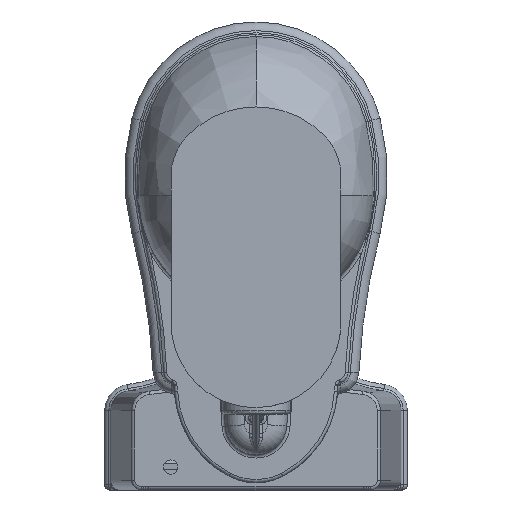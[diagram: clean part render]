
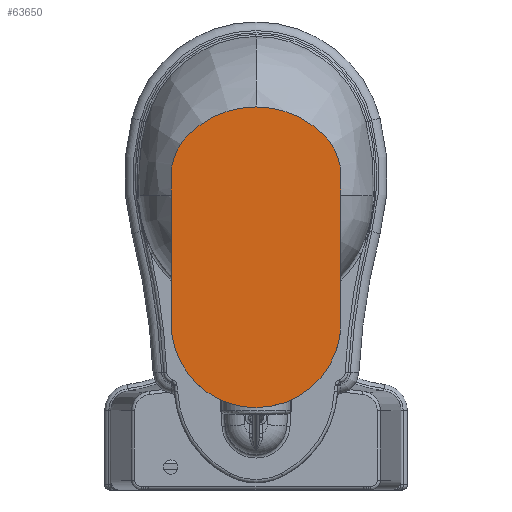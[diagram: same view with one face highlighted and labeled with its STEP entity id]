
A CAD part, front view. The second image highlights one B-rep face of the part: STEP entity #63650.
In plain terms, the highlighted planar face has unit normal (0, -1, 0).
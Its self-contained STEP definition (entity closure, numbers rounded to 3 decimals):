
#740 = DIRECTION ( 'NONE',  ( 0., 0., -1. ) ) ;
#1315 = PLANE ( 'NONE',  #2878 ) ;
#2878 = AXIS2_PLACEMENT_3D ( 'NONE', #47075, #21736, #57378 ) ;
#4089 = ORIENTED_EDGE ( 'NONE', *, *, #65814, .T. ) ;
#4507 = CARTESIAN_POINT ( 'NONE',  ( -95.016, -420., 42.206 ) ) ;
#5114 = ORIENTED_EDGE ( 'NONE', *, *, #58583, .T. ) ;
#6199 = DIRECTION ( 'NONE',  ( 0., 0., 1. ) ) ;
#7282 = VERTEX_POINT ( 'NONE', #20678 ) ;
#8766 = CARTESIAN_POINT ( 'NONE',  ( 0., -420., 314.123 ) ) ;
#9597 = CARTESIAN_POINT ( 'NONE',  ( -76.064, -420., 24.98 ) ) ;
#11065 = CARTESIAN_POINT ( 'NONE',  ( 130., -420., 131.035 ) ) ;
#12330 = CARTESIAN_POINT ( 'NONE',  ( 130., -420., 355.5 ) ) ;
#12733 = CIRCLE ( 'NONE', #15038, 87.838 ) ;
#12943 = CARTESIAN_POINT ( 'NONE',  ( 0., -420., 1.035 ) ) ;
#13858 = DIRECTION ( 'NONE',  ( 0., 0., -1. ) ) ;
#14490 = CARTESIAN_POINT ( 'NONE',  ( -128.764, -420., 109.742 ) ) ;
#14707 = CARTESIAN_POINT ( 'NONE',  ( -56.723, -420., 14.022 ) ) ;
#14790 = DIRECTION ( 'NONE',  ( 0., -1., 0. ) ) ;
#15038 = AXIS2_PLACEMENT_3D ( 'NONE', #61702, #31189, #740 ) ;
#16658 = VERTEX_POINT ( 'NONE', #30504 ) ;
#19042 = VERTEX_POINT ( 'NONE', #57911 ) ;
#19600 = CARTESIAN_POINT ( 'NONE',  ( -123.151, -420., 89.319 ) ) ;
#19831 = CARTESIAN_POINT ( 'NONE',  ( -51.846, -420., 11.819 ) ) ;
#20678 = CARTESIAN_POINT ( 'NONE',  ( -130., -420., 131.035 ) ) ;
#20711 = CARTESIAN_POINT ( 'NONE',  ( -42.162, -420., 355.5 ) ) ;
#21279 = DIRECTION ( 'NONE',  ( 0., 0., -1. ) ) ;
#21736 = DIRECTION ( 'NONE',  ( 0., 1., 0. ) ) ;
#23101 = VERTEX_POINT ( 'NONE', #35910 ) ;
#23788 = VERTEX_POINT ( 'NONE', #12943 ) ;
#23944 = EDGE_CURVE ( 'NONE', #50625, #23101, #12733, .T. ) ;
#24703 = CARTESIAN_POINT ( 'NONE',  ( -120.936, -420., 83.295 ) ) ;
#24869 = CARTESIAN_POINT ( 'NONE',  ( -130., -420., 355.5 ) ) ;
#24925 = CARTESIAN_POINT ( 'NONE',  ( -50.366, -420., 11.187 ) ) ;
#25825 = DIRECTION ( 'NONE',  ( 0., 0., -1. ) ) ;
#27695 = LINE ( 'NONE', #56906, #39668 ) ;
#28042 = EDGE_CURVE ( 'NONE', #31858, #7282, #27695, .T. ) ;
#28953 = ORIENTED_EDGE ( 'NONE', *, *, #23944, .T. ) ;
#29175 = CARTESIAN_POINT ( 'NONE',  ( -130., -420., 122.42 ) ) ;
#29843 = CARTESIAN_POINT ( 'NONE',  ( -110.832, -420., 62.117 ) ) ;
#30072 = CARTESIAN_POINT ( 'NONE',  ( -17.285, -420., 1.035 ) ) ;
#30504 = CARTESIAN_POINT ( 'NONE',  ( 130., -420., 131.035 ) ) ;
#31189 = DIRECTION ( 'NONE',  ( 0., -1., 0. ) ) ;
#31858 = VERTEX_POINT ( 'NONE', #24869 ) ;
#33565 = CIRCLE ( 'NONE', #36437, 146.912 ) ;
#34973 = CARTESIAN_POINT ( 'NONE',  ( -97.886, -420., 45.371 ) ) ;
#35910 = CARTESIAN_POINT ( 'NONE',  ( 104.853, -420., 417.025 ) ) ;
#36437 = AXIS2_PLACEMENT_3D ( 'NONE', #8766, #44332, #13858 ) ;
#38680 = LINE ( 'NONE', #11065, #65803 ) ;
#39282 = ORIENTED_EDGE ( 'NONE', *, *, #28042, .T. ) ;
#39668 = VECTOR ( 'NONE', #21279, 1000. ) ;
#40094 = CARTESIAN_POINT ( 'NONE',  ( -85.89, -420., 33.07 ) ) ;
#44332 = DIRECTION ( 'NONE',  ( 0., -1., 0. ) ) ;
#44510 = CARTESIAN_POINT ( 'NONE',  ( -130., -420., 131.035 ) ) ;
#44614 = ORIENTED_EDGE ( 'NONE', *, *, #65723, .T. ) ;
#45175 = CARTESIAN_POINT ( 'NONE',  ( -63.374, -420., 17.37 ) ) ;
#45189 = ORIENTED_EDGE ( 'NONE', *, *, #51539, .T. ) ;
#45260 = CARTESIAN_POINT ( 'NONE',  ( 0., -420., 131.035 ) ) ;
#47075 = CARTESIAN_POINT ( 'NONE',  ( -42.162, -420., 355.5 ) ) ;
#50041 = CARTESIAN_POINT ( 'NONE',  ( -125.159, -420., 95.381 ) ) ;
#50263 = CARTESIAN_POINT ( 'NONE',  ( -53.321, -420., 12.463 ) ) ;
#50350 = DIRECTION ( 'NONE',  ( 0., 0., -1. ) ) ;
#50625 = VERTEX_POINT ( 'NONE', #12330 ) ;
#51539 = EDGE_CURVE ( 'NONE', #16658, #50625, #38680, .T. ) ;
#53275 = AXIS2_PLACEMENT_3D ( 'NONE', #20711, #56346, #25825 ) ;
#55220 = CARTESIAN_POINT ( 'NONE',  ( -121.709, -420., 85.297 ) ) ;
#55443 = CARTESIAN_POINT ( 'NONE',  ( -50.859, -420., 11.395 ) ) ;
#55931 = EDGE_CURVE ( 'NONE', #23788, #16658, #62387, .T. ) ;
#56346 = DIRECTION ( 'NONE',  ( 0., -1., 0. ) ) ;
#56906 = CARTESIAN_POINT ( 'NONE',  ( -130., -420., 355.5 ) ) ;
#57029 = ORIENTED_EDGE ( 'NONE', *, *, #55931, .T. ) ;
#57378 = DIRECTION ( 'NONE',  ( 0., 0., 1. ) ) ;
#57436 = B_SPLINE_CURVE_WITH_KNOTS ( 'NONE', 3,
 ( #44510, #29175, #14490, #50041, #19600, #55220, #24703, #60379, #29843, #65495, #34973, #4507, #40094, #9597, #45175, #14707, #50263, #19831, #55443, #24925, #60591, #30072, #65725 ),
 .UNSPECIFIED., .F., .F.,
 ( 4, 1, 1, 2, 2, 1, 2, 2, 1, 1, 1, 1, 2, 2, 4 ),
 ( 0., 0.125, 0.188, 0.219, 0.25, 0.375, 0.438, 0.5, 0.625, 0.688, 0.719, 0.734, 0.742, 0.75, 1. ),
 .UNSPECIFIED. ) ;
#57689 = CIRCLE ( 'NONE', #53275, 87.838 ) ;
#57911 = CARTESIAN_POINT ( 'NONE',  ( -104.853, -420., 417.025 ) ) ;
#58583 = EDGE_CURVE ( 'NONE', #23101, #19042, #33565, .T. ) ;
#58595 = FACE_OUTER_BOUND ( 'NONE', #60768, .T. ) ;
#60379 = CARTESIAN_POINT ( 'NONE',  ( -116.82, -420., 73.351 ) ) ;
#60591 = CARTESIAN_POINT ( 'NONE',  ( -33.907, -420., 4.35 ) ) ;
#60768 = EDGE_LOOP ( 'NONE', ( #44614, #57029, #45189, #28953, #5114, #4089, #39282 ) ) ;
#61702 = CARTESIAN_POINT ( 'NONE',  ( 42.162, -420., 355.5 ) ) ;
#62387 = CIRCLE ( 'NONE', #65817, 130. ) ;
#63650 = ADVANCED_FACE ( 'NONE', ( #58595 ), #1315, .F. ) ;
#65495 = CARTESIAN_POINT ( 'NONE',  ( -103.274, -420., 51.929 ) ) ;
#65723 = EDGE_CURVE ( 'NONE', #7282, #23788, #57436, .T. ) ;
#65725 = CARTESIAN_POINT ( 'NONE',  ( 0., -420., 1.035 ) ) ;
#65803 = VECTOR ( 'NONE', #6199, 1000. ) ;
#65814 = EDGE_CURVE ( 'NONE', #19042, #31858, #57689, .T. ) ;
#65817 = AXIS2_PLACEMENT_3D ( 'NONE', #45260, #14790, #50350 ) ;
